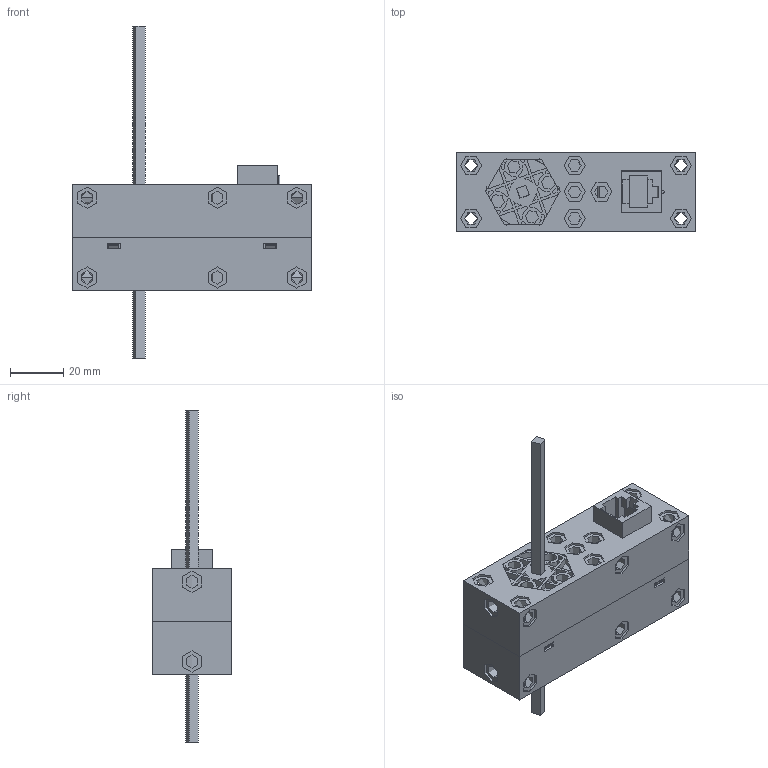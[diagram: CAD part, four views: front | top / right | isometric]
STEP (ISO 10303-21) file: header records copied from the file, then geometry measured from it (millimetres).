
FILE_DESCRIPTION (( 'STEP AP203' ), '1' );
FILE_NAME ('?????1_corrected.STEP', '2019-06-07T09:38:05', ( '' ), ( '' ), 'SwSTEP 2.0', 'SolidWorks 2019', '' );
FILE_SCHEMA (( 'CONFIG_CONTROL_DESIGN' ));
Length unit declared in the file: millimetre
Products named in the file (29): ____22__38^____________ ___?????1(2)_?????1_corrected; ____-5^____________ ___?????1(2)_?????1_corrected; _________GearTrax^________-1______________________ ___?????1(2)_?????1_corrected; ________-1^_____________________ ___?????1(2)_?????1_corrected; Z38M0.6__18.9__^____________ ___?????1(2)_?????1_corrected; Z22M0.6^____22__38_____________ ___?????1(2)_?????1_corrected; ____^_____________________ ___?????1(2)_?????1_corrected; ____2^?????1(2)_?????1_corrected; 130____^________-1______________________ ___?????1(2)_?????1_corrected; ________^____________ ___?????1(2)_?????1_corrected; ____1^?????1(2)_?????1_corrected; ______1^________-1______________________ ___?????1(2)_?????1_corrected; Z13M0.6__6.2__^_______________________ ___?????1(2)_?????1_corrected; ____-2^____________ ___?????1(2)_?????1_corrected; ?????1_corrected; __________^____________ ___?????1(2)_?????1_corrected; ____________ __^?????1(2)_?????1_corrected; ______^____________ ___?????1(2)_?????1_corrected; _________GearTrax-1^_______________________ ___?????1(2)_?????1_corrected; RJ45______^____________ ___?????1(2)_?????1_corrected; ________-4^____________ ___?????1(2)_?????1_corrected; Z30M0.6^____13__30_____________ ___?????1(2)_?????1_corrected; ____-0^_____________________ ___?????1(2)_?????1_corrected; ?????1(2)^?????1_corrected; Z38M0.6__2__^____22__38_____________ ___?????1(2)_?????1_corrected; ____13__30^____________ ___?????1(2)_?????1_corrected; Z13M0.6__5.5__^____13__30_____________ ___?????1(2)_?????1_corrected; ________-3^____________ ___?????1(2)_?????1_corrected; ____-6^____________ ___?????1(2)_?????1_corrected
Assembly tree (33 placements, depth 6):
  ?????1_corrected
    ?????1(2)^?????1_corrected
      ____________ __^?????1(2)_?????1_corrected
        ________^____________ ___?????1(2)_?????1_corrected
          ________-1^_____________________ ___?????1(2)_?????1_corrected
            130____^________-1______________________ ___?????1(2)_?????1_corrected
            _________GearTrax^________-1______________________ ___?????1(2)_?????1_corrected
            ______1^________-1______________________ ___?????1(2)_?????1_corrected
          ____^_____________________ ___?????1(2)_?????1_corrected
          ____-0^_____________________ ___?????1(2)_?????1_corrected
        __________^____________ ___?????1(2)_?????1_corrected
          Z13M0.6__6.2__^_______________________ ___?????1(2)_?????1_corrected
          _________GearTrax-1^_______________________ ___?????1(2)_?????1_corrected
        ____22__38^____________ ___?????1(2)_?????1_corrected
          Z38M0.6__2__^____22__38_____________ ___?????1(2)_?????1_corrected
          Z22M0.6^____22__38_____________ ___?????1(2)_?????1_corrected
        ____13__30^____________ ___?????1(2)_?????1_corrected
          Z13M0.6__5.5__^____13__30_____________ ___?????1(2)_?????1_corrected
          Z30M0.6^____13__30_____________ ___?????1(2)_?????1_corrected
        Z38M0.6__18.9__^____________ ___?????1(2)_?????1_corrected
        ____-2^____________ ___?????1(2)_?????1_corrected
        ________-3^____________ ___?????1(2)_?????1_corrected  x4
        ________-4^____________ ___?????1(2)_?????1_corrected  x2
        ______^____________ ___?????1(2)_?????1_corrected
        ____-5^____________ ___?????1(2)_?????1_corrected  x2
        ____-6^____________ ___?????1(2)_?????1_corrected
        RJ45______^____________ ___?????1(2)_?????1_corrected
      ____1^?????1(2)_?????1_corrected
      ____2^?????1(2)_?????1_corrected
Bounding box: 90 x 30 x 125 mm (x, y, z)
Topology: 21 solids, 29 shells, 3517 faces, 9776 edges, 6461 vertices
Faces by surface type: cylinder 1846, plane 1145, bspline 340, cone 149, torus 33, sphere 4
Full cylindrical faces by diameter (mm): 2 x4
Entity records: 148189 total; most frequent: CARTESIAN_POINT 62090, ORIENTED_EDGE 18044, DIRECTION 17102, EDGE_CURVE 9022, AXIS2_PLACEMENT_3D 6533, VERTEX_POINT 5967, VECTOR 4036, LINE 4036
